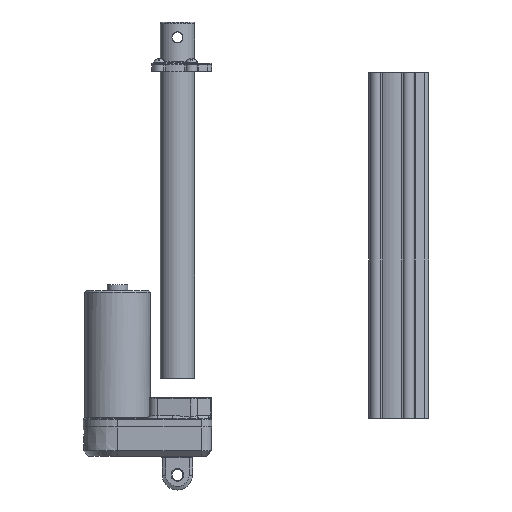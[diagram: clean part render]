
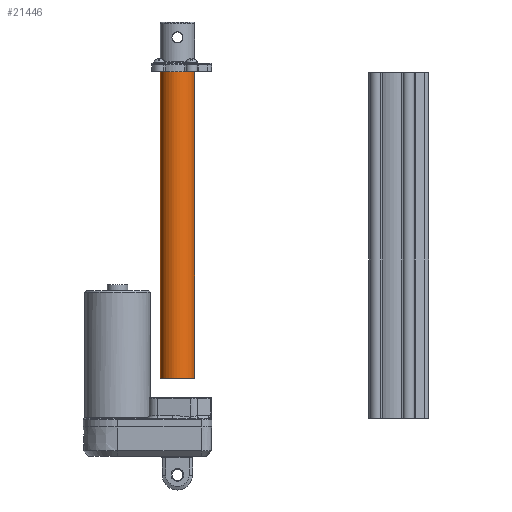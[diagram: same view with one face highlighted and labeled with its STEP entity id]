
A CAD part, front view. The second image highlights one B-rep face of the part: STEP entity #21446.
In plain terms, the highlighted cylindrical face has radius 10 mm (diameter 20 mm), a partial arc.
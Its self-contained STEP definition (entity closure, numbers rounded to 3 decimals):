
#3320=CYLINDRICAL_SURFACE('',#24552,10.);
#4541=LINE('',#36724,#25677);
#4542=LINE('',#36728,#25678);
#6385=VERTEX_POINT('',#36722);
#6386=VERTEX_POINT('',#36723);
#6387=VERTEX_POINT('',#36725);
#6388=VERTEX_POINT('',#36727);
#8163=CIRCLE('',#24432,10.);
#8225=CIRCLE('',#24553,10.);
#11010=EDGE_CURVE('',#6386,#6387,#4541,.T.);
#11012=EDGE_CURVE('',#6385,#6388,#4542,.T.);
#11181=EDGE_CURVE('',#6386,#6385,#8163,.F.);
#11273=EDGE_CURVE('',#6388,#6387,#8225,.T.);
#17309=ORIENTED_EDGE('',*,*,#11010,.F.);
#17310=ORIENTED_EDGE('',*,*,#11181,.T.);
#17311=ORIENTED_EDGE('',*,*,#11012,.T.);
#17312=ORIENTED_EDGE('',*,*,#11273,.T.);
#18907=EDGE_LOOP('',(#17309,#17310,#17311,#17312));
#20215=FACE_BOUND('',#18907,.T.);
#21446=ADVANCED_FACE('',(#20215),#3320,.T.);
#24432=AXIS2_PLACEMENT_3D('',#37447,#44002,#44003);
#24552=AXIS2_PLACEMENT_3D('',#37685,#44242,#44243);
#24553=AXIS2_PLACEMENT_3D('',#37686,#44244,#44245);
#25677=VECTOR('',#43717,1.);
#25678=VECTOR('',#43720,1.);
#36722=CARTESIAN_POINT('',(25.,0.,202.5));
#36723=CARTESIAN_POINT('',(45.,0.,202.5));
#36724=CARTESIAN_POINT('',(45.,0.,231.5));
#36725=CARTESIAN_POINT('',(45.,0.,23.5));
#36727=CARTESIAN_POINT('',(25.,0.,23.5));
#36728=CARTESIAN_POINT('',(25.,0.,231.5));
#37447=CARTESIAN_POINT('',(35.,0.,202.5));
#37685=CARTESIAN_POINT('',(35.,0.,231.5));
#37686=CARTESIAN_POINT('',(35.,0.,23.5));
#43717=DIRECTION('',(0.,0.,-1.));
#43720=DIRECTION('',(0.,0.,-1.));
#44002=DIRECTION('',(0.,0.,1.));
#44003=DIRECTION('',(10.,0.,0.));
#44242=DIRECTION('',(0.,0.,-1.));
#44243=DIRECTION('',(-10.,0.,0.));
#44244=DIRECTION('',(0.,0.,1.));
#44245=DIRECTION('',(10.,0.,0.));
